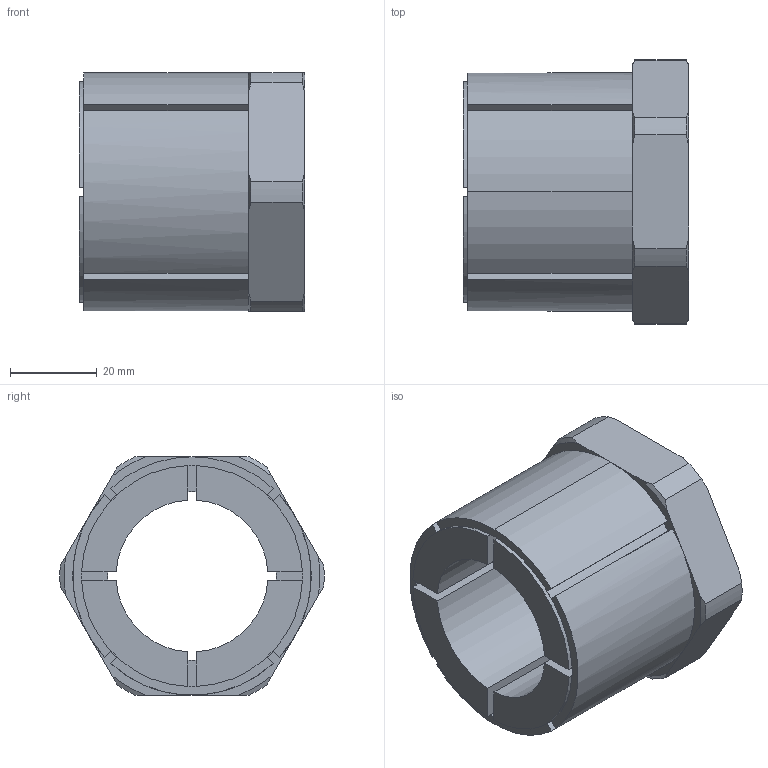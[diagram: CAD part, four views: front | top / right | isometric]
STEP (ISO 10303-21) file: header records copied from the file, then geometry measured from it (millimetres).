
FILE_DESCRIPTION (( 'STEP AP203' ), '1' );
FILE_NAME ('KBS 58 - 35 x 55.STEP', '2015-07-05T19:59:46', ( '' ), ( '' ), 'SwSTEP 2.0', 'SolidWorks 2010', '' );
FILE_SCHEMA (( 'CONFIG_CONTROL_DESIGN' ));
Length unit declared in the file: millimetre
Products named in the file (1): KBS 58 - 35 x 55
Bounding box: 52 x 60.98 x 55 mm (x, y, z)
Volume: 71998.3 mm3; surface area: 21956.9 mm2
Topology: 1 solids, 1 shells, 84 faces, 231 edges, 149 vertices
Faces by surface type: plane 42, cylinder 26, cone 16
Entity records: 2817 total; most frequent: CARTESIAN_POINT 585, ORIENTED_EDGE 462, DIRECTION 454, EDGE_CURVE 231, AXIS2_PLACEMENT_3D 170, VERTEX_POINT 149, LINE 114, VECTOR 114
